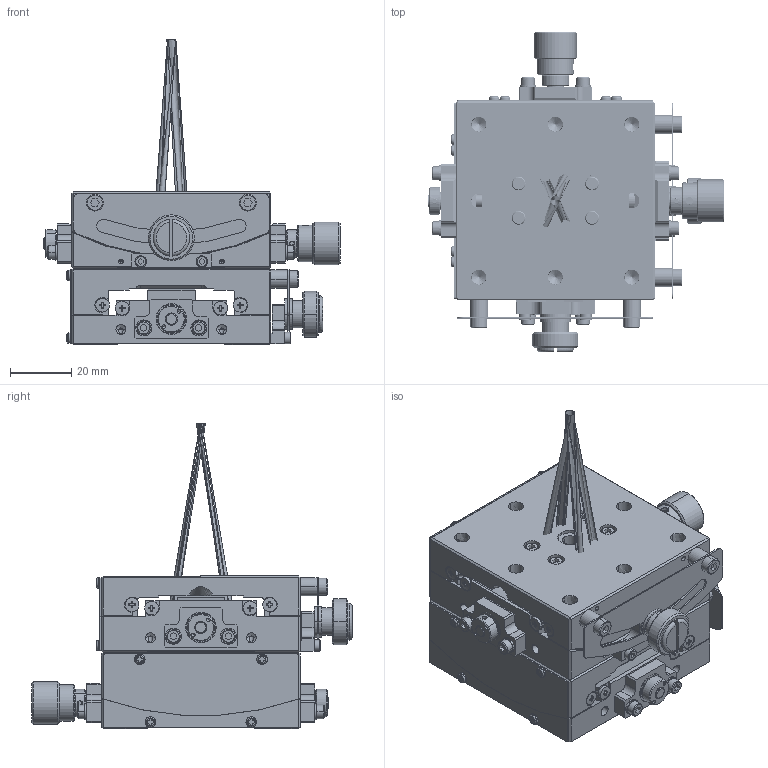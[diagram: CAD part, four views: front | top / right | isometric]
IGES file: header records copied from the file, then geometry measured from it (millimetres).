
Global section: file name: No Iges File Name specified; native system: AutoDesk Inventor R12.0; preprocessor: AutoDesk Inventor Iges Exporter R12.0; date: 20140522.195113; units: millimetre
Bounding box: 97.1 x 104.8 x 100 mm (x, y, z)
Volume: 177721.8 mm3; surface area: 92054.8 mm2
Topology: 61 solids, 103 shells, 2965 faces, 7304 edges, 4611 vertices
Faces by surface type: plane 1211, bspline 784, cylinder 438, cone 246, revolution 202, torus 52, sphere 32
